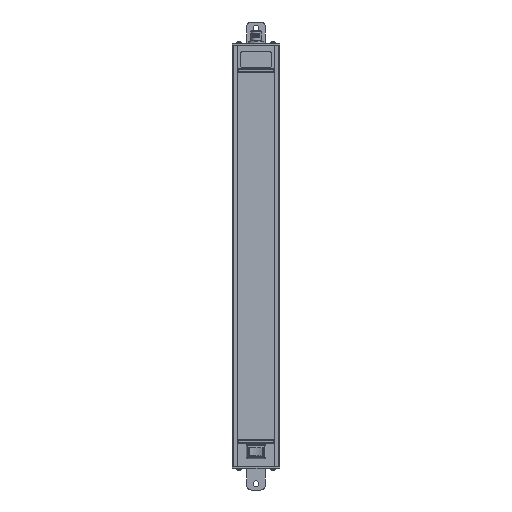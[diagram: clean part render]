
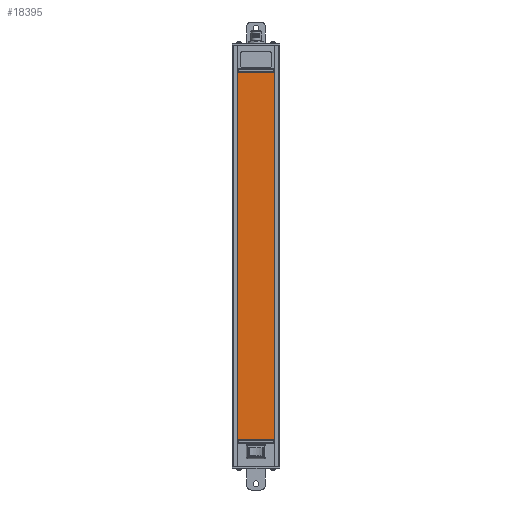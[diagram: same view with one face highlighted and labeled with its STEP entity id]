
A CAD part, front view. The second image highlights one B-rep face of the part: STEP entity #18395.
In plain terms, the highlighted planar face has unit normal (0, -1, 0).
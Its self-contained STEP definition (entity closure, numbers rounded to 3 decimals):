
#808 = LINE ( 'NONE', #1136, #25464 ) ;
#1136 = CARTESIAN_POINT ( 'NONE',  ( -198.5, 0., 21. ) ) ;
#2476 = EDGE_CURVE ( 'NONE', #28645, #23497, #31216, .T. ) ;
#3618 = EDGE_CURVE ( 'NONE', #18328, #28645, #15991, .T. ) ;
#4278 = ORIENTED_EDGE ( 'NONE', *, *, #10550, .F. ) ;
#4412 = CARTESIAN_POINT ( 'NONE',  ( 198.5, 0., 21. ) ) ;
#5423 = VERTEX_POINT ( 'NONE', #14646 ) ;
#10550 = EDGE_CURVE ( 'NONE', #23497, #5423, #808, .T. ) ;
#10690 = DIRECTION ( 'NONE',  ( 0., 0., -1. ) ) ;
#11038 = CARTESIAN_POINT ( 'NONE',  ( -198.5, 0., -21. ) ) ;
#11190 = CARTESIAN_POINT ( 'NONE',  ( -198.5, 0., 21. ) ) ;
#11423 = ORIENTED_EDGE ( 'NONE', *, *, #2476, .F. ) ;
#12212 = VECTOR ( 'NONE', #14630, 1000. ) ;
#13586 = ORIENTED_EDGE ( 'NONE', *, *, #24390, .F. ) ;
#14630 = DIRECTION ( 'NONE',  ( 0., 0., -1. ) ) ;
#14646 = CARTESIAN_POINT ( 'NONE',  ( 198.5, 0., 21. ) ) ;
#15991 = LINE ( 'NONE', #30954, #31309 ) ;
#17731 = CARTESIAN_POINT ( 'NONE',  ( 198.5, 0., -21. ) ) ;
#18291 = CARTESIAN_POINT ( 'NONE',  ( -198.5, 0., 21. ) ) ;
#18328 = VERTEX_POINT ( 'NONE', #17731 ) ;
#18367 = AXIS2_PLACEMENT_3D ( 'NONE', #23100, #28322, #10690 ) ;
#18395 = ADVANCED_FACE ( 'NONE', ( #20747 ), #20419, .T. ) ;
#18534 = EDGE_LOOP ( 'NONE', ( #13586, #4278, #11423, #31928 ) ) ;
#18949 = DIRECTION ( 'NONE',  ( 0., 0., 1. ) ) ;
#20419 = PLANE ( 'NONE',  #18367 ) ;
#20747 = FACE_OUTER_BOUND ( 'NONE', #18534, .T. ) ;
#23100 = CARTESIAN_POINT ( 'NONE',  ( 198.5, 0., -21. ) ) ;
#23497 = VERTEX_POINT ( 'NONE', #11190 ) ;
#24390 = EDGE_CURVE ( 'NONE', #5423, #18328, #32403, .T. ) ;
#25464 = VECTOR ( 'NONE', #26140, 1000. ) ;
#25912 = DIRECTION ( 'NONE',  ( -1., 0., 0. ) ) ;
#26132 = VECTOR ( 'NONE', #18949, 1000. ) ;
#26140 = DIRECTION ( 'NONE',  ( 1., 0., 0. ) ) ;
#28322 = DIRECTION ( 'NONE',  ( 0., -1., 0. ) ) ;
#28645 = VERTEX_POINT ( 'NONE', #11038 ) ;
#30954 = CARTESIAN_POINT ( 'NONE',  ( -198.5, 0., -21. ) ) ;
#31216 = LINE ( 'NONE', #18291, #26132 ) ;
#31309 = VECTOR ( 'NONE', #25912, 1000. ) ;
#31928 = ORIENTED_EDGE ( 'NONE', *, *, #3618, .F. ) ;
#32403 = LINE ( 'NONE', #4412, #12212 ) ;
